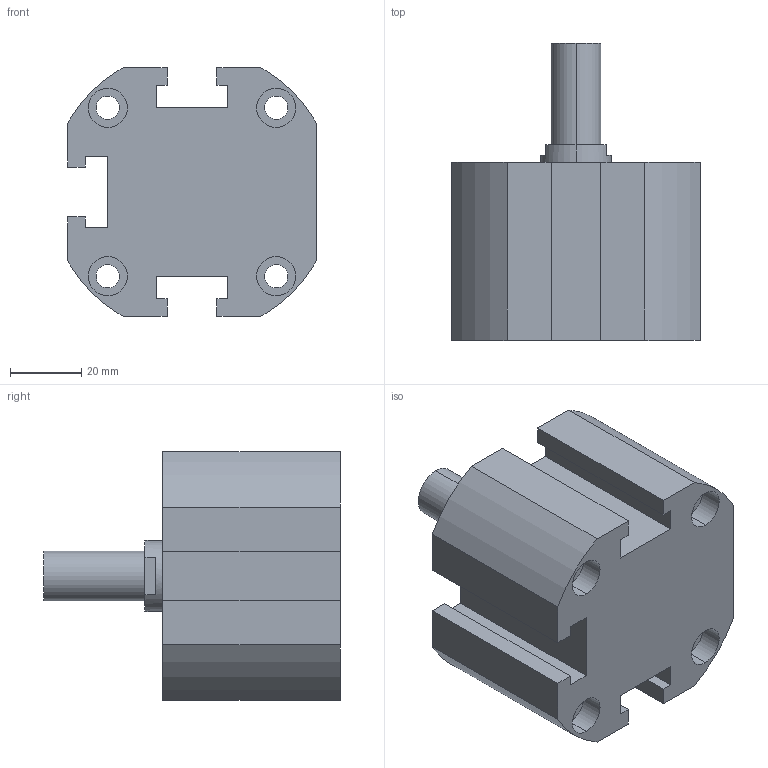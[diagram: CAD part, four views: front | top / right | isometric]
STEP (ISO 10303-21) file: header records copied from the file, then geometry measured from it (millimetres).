
FILE_DESCRIPTION (( 'STEP AP203' ), '1' );
FILE_NAME ('XG#M0-50D-10.STEP', '2016-05-24T02:05:47', ( '' ), ( '' ), 'SwSTEP 2.0', 'SolidWorks 2014', '' );
FILE_SCHEMA (( 'CONFIG_CONTROL_DESIGN' ));
Length unit declared in the file: millimetre
Products named in the file (1): XG#M0-50D-10
Bounding box: 70 x 83.5 x 70 mm (x, y, z)
Volume: 189879.7 mm3; surface area: 32260.9 mm2
Topology: 1 solids, 1 shells, 106 faces, 263 edges, 173 vertices
Faces by surface type: cylinder 52, plane 50, cone 4
Entity records: 3266 total; most frequent: DIRECTION 587, CARTESIAN_POINT 541, ORIENTED_EDGE 522, EDGE_CURVE 261, AXIS2_PLACEMENT_3D 219, VERTEX_POINT 173, VECTOR 149, LINE 149
